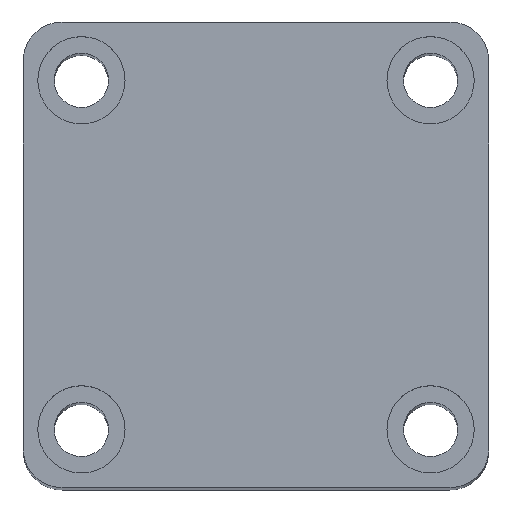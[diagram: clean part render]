
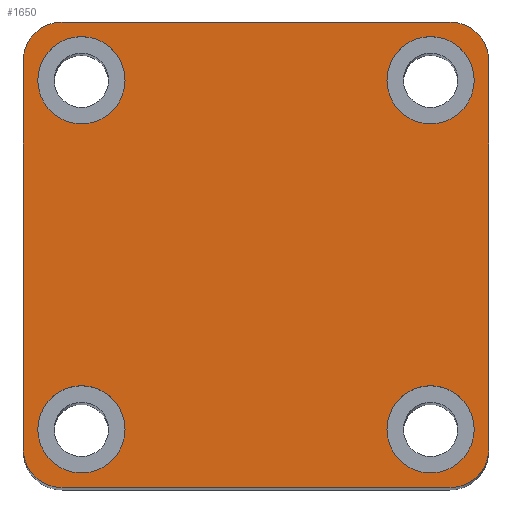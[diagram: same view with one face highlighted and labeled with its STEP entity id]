
A CAD part, top view. The second image highlights one B-rep face of the part: STEP entity #1650.
In plain terms, the highlighted planar face has unit normal (0, 0, 1).
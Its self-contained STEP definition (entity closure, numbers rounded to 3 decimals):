
#40 = FACE_BOUND ( 'NONE', #348, .T. ) ;
#42 = FACE_OUTER_BOUND ( 'NONE', #340, .T. ) ;
#43 = FACE_BOUND ( 'NONE', #329, .T. ) ;
#46 = FACE_BOUND ( 'NONE', #358, .T. ) ;
#49 = FACE_BOUND ( 'NONE', #369, .T. ) ;
#130 = CIRCLE ( 'NONE', #542, 4.5 ) ;
#136 = CIRCLE ( 'NONE', #543, 4.5 ) ;
#147 = CIRCLE ( 'NONE', #547, 4.5 ) ;
#156 = CIRCLE ( 'NONE', #554, 4. ) ;
#159 = VECTOR ( 'NONE', #866, 1000. ) ;
#162 = LINE ( 'NONE', #889, #159 ) ;
#179 = VECTOR ( 'NONE', #976, 1000. ) ;
#185 = LINE ( 'NONE', #1847, #179 ) ;
#196 = CIRCLE ( 'NONE', #569, 4.5 ) ;
#215 = VECTOR ( 'NONE', #1907, 1000. ) ;
#218 = LINE ( 'NONE', #1908, #215 ) ;
#223 = CIRCLE ( 'NONE', #576, 4.5 ) ;
#224 = CIRCLE ( 'NONE', #577, 4.5 ) ;
#225 = CIRCLE ( 'NONE', #579, 4.5 ) ;
#227 = CIRCLE ( 'NONE', #581, 4. ) ;
#230 = CIRCLE ( 'NONE', #585, 4. ) ;
#232 = CIRCLE ( 'NONE', #578, 4.5 ) ;
#239 = CIRCLE ( 'NONE', #587, 4. ) ;
#253 = VECTOR ( 'NONE', #2041, 1000. ) ;
#265 = LINE ( 'NONE', #2035, #253 ) ;
#329 = EDGE_LOOP ( 'NONE', ( #2554, #2555 ) ) ;
#340 = EDGE_LOOP ( 'NONE', ( #2562, #2563, #2564, #2565, #2566, #2567, #2568, #2569 ) ) ;
#348 = EDGE_LOOP ( 'NONE', ( #2556, #2557 ) ) ;
#358 = EDGE_LOOP ( 'NONE', ( #2560, #2561 ) ) ;
#369 = EDGE_LOOP ( 'NONE', ( #2558, #2559 ) ) ;
#542 = AXIS2_PLACEMENT_3D ( 'NONE', #977, #975, #973 ) ;
#543 = AXIS2_PLACEMENT_3D ( 'NONE', #981, #980, #979 ) ;
#547 = AXIS2_PLACEMENT_3D ( 'NONE', #685, #687, #682 ) ;
#554 = AXIS2_PLACEMENT_3D ( 'NONE', #818, #817, #816 ) ;
#569 = AXIS2_PLACEMENT_3D ( 'NONE', #1850, #1849, #1848 ) ;
#576 = AXIS2_PLACEMENT_3D ( 'NONE', #1914, #1913, #1912 ) ;
#577 = AXIS2_PLACEMENT_3D ( 'NONE', #1919, #1918, #1917 ) ;
#578 = AXIS2_PLACEMENT_3D ( 'NONE', #1924, #1923, #1921 ) ;
#579 = AXIS2_PLACEMENT_3D ( 'NONE', #1928, #1926, #1925 ) ;
#581 = AXIS2_PLACEMENT_3D ( 'NONE', #1937, #1936, #1935 ) ;
#585 = AXIS2_PLACEMENT_3D ( 'NONE', #1954, #1952, #1951 ) ;
#587 = AXIS2_PLACEMENT_3D ( 'NONE', #1961, #1960, #1959 ) ;
#682 = DIRECTION ( 'NONE',  ( 1., 0., 0. ) ) ;
#685 = CARTESIAN_POINT ( 'NONE',  ( -18., -18., 145. ) ) ;
#687 = DIRECTION ( 'NONE',  ( 0., 0., 1. ) ) ;
#747 = DIRECTION ( 'NONE',  ( 1., 0., 0. ) ) ;
#748 = CARTESIAN_POINT ( 'NONE',  ( 0., 0., 145. ) ) ;
#751 = PLANE ( 'NONE',  #1812 ) ;
#760 = DIRECTION ( 'NONE',  ( 0., 0., 1. ) ) ;
#816 = DIRECTION ( 'NONE',  ( 1., 0., 0. ) ) ;
#817 = DIRECTION ( 'NONE',  ( 0., 0., 1. ) ) ;
#818 = CARTESIAN_POINT ( 'NONE',  ( -20., 20., 145. ) ) ;
#866 = DIRECTION ( 'NONE',  ( -1., 0., 0. ) ) ;
#889 = CARTESIAN_POINT ( 'NONE',  ( -24., 24., 145. ) ) ;
#973 = DIRECTION ( 'NONE',  ( 1., 0., 0. ) ) ;
#975 = DIRECTION ( 'NONE',  ( 0., 0., 1. ) ) ;
#976 = DIRECTION ( 'NONE',  ( 0., -1., 0. ) ) ;
#977 = CARTESIAN_POINT ( 'NONE',  ( -18., 18., 145. ) ) ;
#979 = DIRECTION ( 'NONE',  ( 1., 0., 0. ) ) ;
#980 = DIRECTION ( 'NONE',  ( 0., 0., 1. ) ) ;
#981 = CARTESIAN_POINT ( 'NONE',  ( 18., 18., 145. ) ) ;
#1021 = EDGE_CURVE ( 'NONE', #2671, #2685, #265, .T. ) ;
#1040 = EDGE_CURVE ( 'NONE', #2643, #2663, #239, .T. ) ;
#1042 = EDGE_CURVE ( 'NONE', #2662, #2671, #230, .T. ) ;
#1045 = EDGE_CURVE ( 'NONE', #2685, #2674, #227, .T. ) ;
#1047 = EDGE_CURVE ( 'NONE', #2590, #2599, #225, .T. ) ;
#1048 = EDGE_CURVE ( 'NONE', #2660, #2624, #232, .T. ) ;
#1049 = EDGE_CURVE ( 'NONE', #2683, #2587, #224, .T. ) ;
#1050 = EDGE_CURVE ( 'NONE', #2694, #2612, #223, .T. ) ;
#1053 = EDGE_CURVE ( 'NONE', #2663, #2662, #218, .T. ) ;
#1071 = EDGE_CURVE ( 'NONE', #2624, #2660, #196, .T. ) ;
#1075 = EDGE_CURVE ( 'NONE', #2654, #2643, #185, .T. ) ;
#1089 = EDGE_CURVE ( 'NONE', #2674, #2574, #162, .T. ) ;
#1093 = EDGE_CURVE ( 'NONE', #2574, #2654, #156, .T. ) ;
#1104 = EDGE_CURVE ( 'NONE', #2599, #2590, #147, .T. ) ;
#1112 = EDGE_CURVE ( 'NONE', #2612, #2694, #136, .T. ) ;
#1113 = EDGE_CURVE ( 'NONE', #2587, #2683, #130, .T. ) ;
#1650 = ADVANCED_FACE ( 'NONE', ( #43, #40, #49, #46, #42 ), #751, .T. ) ;
#1812 = AXIS2_PLACEMENT_3D ( 'NONE', #748, #760, #747 ) ;
#1847 = CARTESIAN_POINT ( 'NONE',  ( -24., 24., 145. ) ) ;
#1848 = DIRECTION ( 'NONE',  ( 1., 0., 0. ) ) ;
#1849 = DIRECTION ( 'NONE',  ( 0., 0., 1. ) ) ;
#1850 = CARTESIAN_POINT ( 'NONE',  ( 18., -18., 145. ) ) ;
#1907 = DIRECTION ( 'NONE',  ( 1., 0., 0. ) ) ;
#1908 = CARTESIAN_POINT ( 'NONE',  ( -24., -24., 145. ) ) ;
#1912 = DIRECTION ( 'NONE',  ( 1., 0., 0. ) ) ;
#1913 = DIRECTION ( 'NONE',  ( 0., 0., 1. ) ) ;
#1914 = CARTESIAN_POINT ( 'NONE',  ( 18., 18., 145. ) ) ;
#1917 = DIRECTION ( 'NONE',  ( 1., 0., 0. ) ) ;
#1918 = DIRECTION ( 'NONE',  ( 0., 0., 1. ) ) ;
#1919 = CARTESIAN_POINT ( 'NONE',  ( -18., 18., 145. ) ) ;
#1921 = DIRECTION ( 'NONE',  ( 1., 0., 0. ) ) ;
#1923 = DIRECTION ( 'NONE',  ( 0., 0., 1. ) ) ;
#1924 = CARTESIAN_POINT ( 'NONE',  ( 18., -18., 145. ) ) ;
#1925 = DIRECTION ( 'NONE',  ( 1., 0., 0. ) ) ;
#1926 = DIRECTION ( 'NONE',  ( 0., 0., 1. ) ) ;
#1928 = CARTESIAN_POINT ( 'NONE',  ( -18., -18., 145. ) ) ;
#1935 = DIRECTION ( 'NONE',  ( 1., 0., 0. ) ) ;
#1936 = DIRECTION ( 'NONE',  ( 0., 0., 1. ) ) ;
#1937 = CARTESIAN_POINT ( 'NONE',  ( 20., 20., 145. ) ) ;
#1951 = DIRECTION ( 'NONE',  ( 1., 0., 0. ) ) ;
#1952 = DIRECTION ( 'NONE',  ( 0., 0., 1. ) ) ;
#1954 = CARTESIAN_POINT ( 'NONE',  ( 20., -20., 145. ) ) ;
#1959 = DIRECTION ( 'NONE',  ( 1., 0., 0. ) ) ;
#1960 = DIRECTION ( 'NONE',  ( 0., 0., 1. ) ) ;
#1961 = CARTESIAN_POINT ( 'NONE',  ( -20., -20., 145. ) ) ;
#2035 = CARTESIAN_POINT ( 'NONE',  ( 24., 24., 145. ) ) ;
#2041 = DIRECTION ( 'NONE',  ( 0., 1., 0. ) ) ;
#2189 = CARTESIAN_POINT ( 'NONE',  ( -22.5, 18., 145. ) ) ;
#2223 = CARTESIAN_POINT ( 'NONE',  ( -20., 24., 145. ) ) ;
#2362 = CARTESIAN_POINT ( 'NONE',  ( -22.5, -18., 145. ) ) ;
#2363 = CARTESIAN_POINT ( 'NONE',  ( 22.5, 18., 145. ) ) ;
#2375 = CARTESIAN_POINT ( 'NONE',  ( 24., 20., 145. ) ) ;
#2378 = CARTESIAN_POINT ( 'NONE',  ( -13.5, 18., 145. ) ) ;
#2387 = CARTESIAN_POINT ( 'NONE',  ( 20., 24., 145. ) ) ;
#2390 = CARTESIAN_POINT ( 'NONE',  ( 24., -20., 145. ) ) ;
#2395 = CARTESIAN_POINT ( 'NONE',  ( -13.5, -18., 145. ) ) ;
#2402 = CARTESIAN_POINT ( 'NONE',  ( -20., -24., 145. ) ) ;
#2403 = CARTESIAN_POINT ( 'NONE',  ( 20., -24., 145. ) ) ;
#2406 = CARTESIAN_POINT ( 'NONE',  ( 22.5, -18., 145. ) ) ;
#2413 = CARTESIAN_POINT ( 'NONE',  ( -24., 20., 145. ) ) ;
#2429 = CARTESIAN_POINT ( 'NONE',  ( -24., -20., 145. ) ) ;
#2460 = CARTESIAN_POINT ( 'NONE',  ( 13.5, -18., 145. ) ) ;
#2474 = CARTESIAN_POINT ( 'NONE',  ( 13.5, 18., 145. ) ) ;
#2554 = ORIENTED_EDGE ( 'NONE', *, *, #1049, .F. ) ;
#2555 = ORIENTED_EDGE ( 'NONE', *, *, #1113, .F. ) ;
#2556 = ORIENTED_EDGE ( 'NONE', *, *, #1050, .F. ) ;
#2557 = ORIENTED_EDGE ( 'NONE', *, *, #1112, .F. ) ;
#2558 = ORIENTED_EDGE ( 'NONE', *, *, #1047, .F. ) ;
#2559 = ORIENTED_EDGE ( 'NONE', *, *, #1104, .F. ) ;
#2560 = ORIENTED_EDGE ( 'NONE', *, *, #1048, .F. ) ;
#2561 = ORIENTED_EDGE ( 'NONE', *, *, #1071, .F. ) ;
#2562 = ORIENTED_EDGE ( 'NONE', *, *, #1089, .T. ) ;
#2563 = ORIENTED_EDGE ( 'NONE', *, *, #1093, .T. ) ;
#2564 = ORIENTED_EDGE ( 'NONE', *, *, #1075, .T. ) ;
#2565 = ORIENTED_EDGE ( 'NONE', *, *, #1040, .T. ) ;
#2566 = ORIENTED_EDGE ( 'NONE', *, *, #1053, .T. ) ;
#2567 = ORIENTED_EDGE ( 'NONE', *, *, #1042, .T. ) ;
#2568 = ORIENTED_EDGE ( 'NONE', *, *, #1021, .T. ) ;
#2569 = ORIENTED_EDGE ( 'NONE', *, *, #1045, .T. ) ;
#2574 = VERTEX_POINT ( 'NONE', #2223 ) ;
#2587 = VERTEX_POINT ( 'NONE', #2189 ) ;
#2590 = VERTEX_POINT ( 'NONE', #2395 ) ;
#2599 = VERTEX_POINT ( 'NONE', #2362 ) ;
#2612 = VERTEX_POINT ( 'NONE', #2474 ) ;
#2624 = VERTEX_POINT ( 'NONE', #2460 ) ;
#2643 = VERTEX_POINT ( 'NONE', #2429 ) ;
#2654 = VERTEX_POINT ( 'NONE', #2413 ) ;
#2660 = VERTEX_POINT ( 'NONE', #2406 ) ;
#2662 = VERTEX_POINT ( 'NONE', #2403 ) ;
#2663 = VERTEX_POINT ( 'NONE', #2402 ) ;
#2671 = VERTEX_POINT ( 'NONE', #2390 ) ;
#2674 = VERTEX_POINT ( 'NONE', #2387 ) ;
#2683 = VERTEX_POINT ( 'NONE', #2378 ) ;
#2685 = VERTEX_POINT ( 'NONE', #2375 ) ;
#2694 = VERTEX_POINT ( 'NONE', #2363 ) ;
